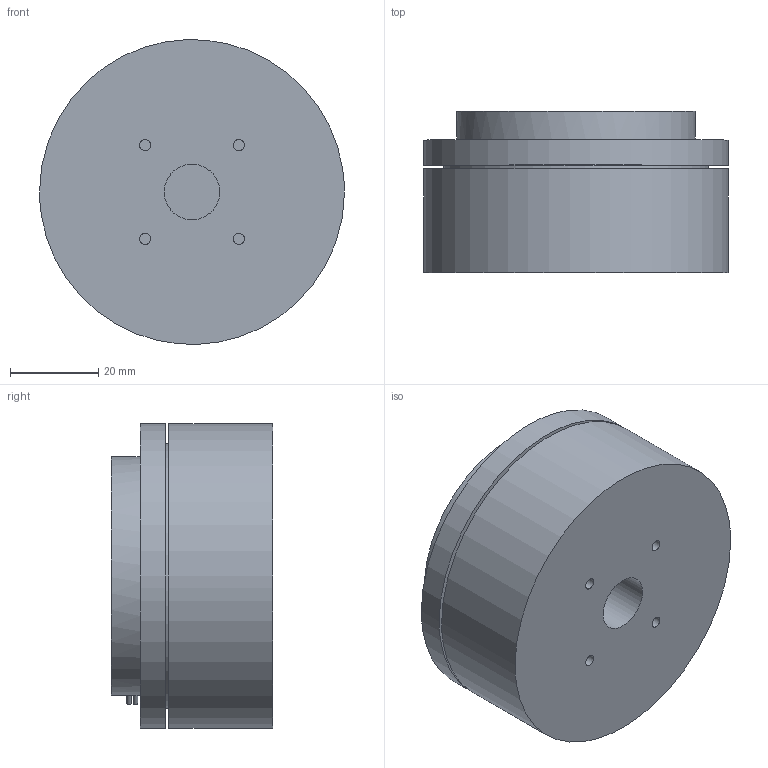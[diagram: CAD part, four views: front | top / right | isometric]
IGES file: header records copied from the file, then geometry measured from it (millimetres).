
Global section: file name: M6829; native system: unknown; preprocessor: unknown; author: unknown; organization: unknown; date: 20191115.093519; units: millimetre
Bounding box: 69 x 36.5 x 68.94 mm (x, y, z)
Volume: 121898 mm3; surface area: 19592.5 mm2
Topology: 1 solids, 5 shells, 104 faces, 210 edges, 138 vertices
Faces by surface type: bspline 104
